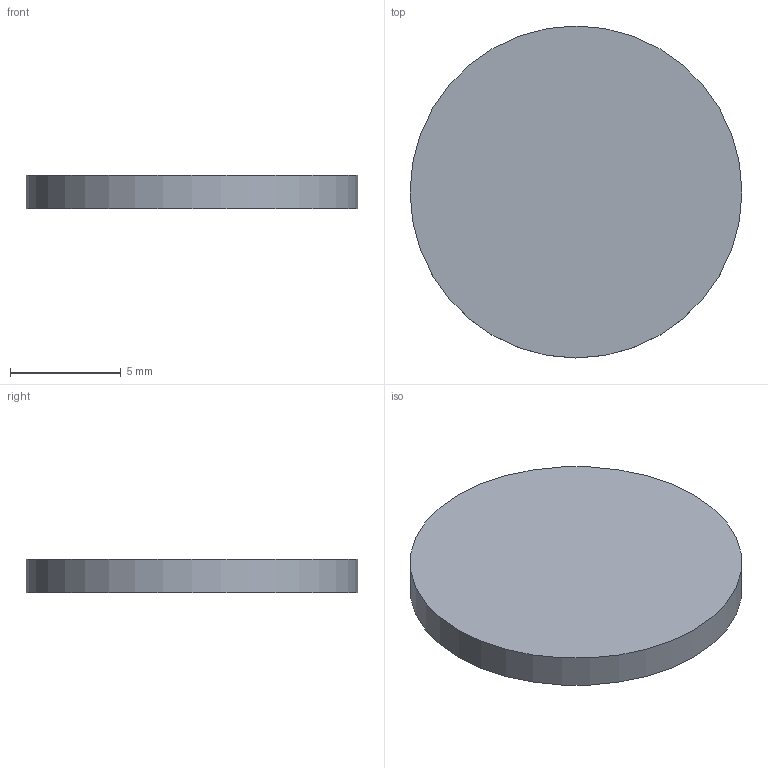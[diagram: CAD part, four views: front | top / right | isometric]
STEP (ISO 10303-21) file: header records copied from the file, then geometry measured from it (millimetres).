
FILE_DESCRIPTION(/* description */ ('Alibre Inc.'),/* implementation_level */ '2;1');
FILE_NAME(/* name */ 'export0',/* time_stamp */ '2013-07-17T12:52:18-06:00',/* author */ (''),/* organization */ (''),/* preprocessor_version */ 'ST-DEVELOPER v14',/* originating_system */ 'Alibre',/* authorisation */ '');
FILE_SCHEMA (('ALIBRE_SCHEMA','CONFIG_CONTROL_DESIGN'));
Length unit declared in the file: centimetre
Products named in the file (1): ID_1
Bounding box: 15 x 15 x 1.5 mm (x, y, z)
Volume: 265.1 mm3; surface area: 424.1 mm2
Topology: 1 solids, 1 shells, 3 faces, 3 edges, 2 vertices
Faces by surface type: plane 2, cylinder 1
Full cylindrical faces by diameter (mm): 15 x1
Entity records: 398 total; most frequent: INTEGERVALUEPAIR 35, REALVALUEPAIR 25, CARTESIAN_POINT 22, DIRECTION 21, STRINGVALUEPAIR 15, BOOLEANVALUEPAIR 13, AXIS2_PLACEMENT_3D 9, PRODUCTVERSION 9
